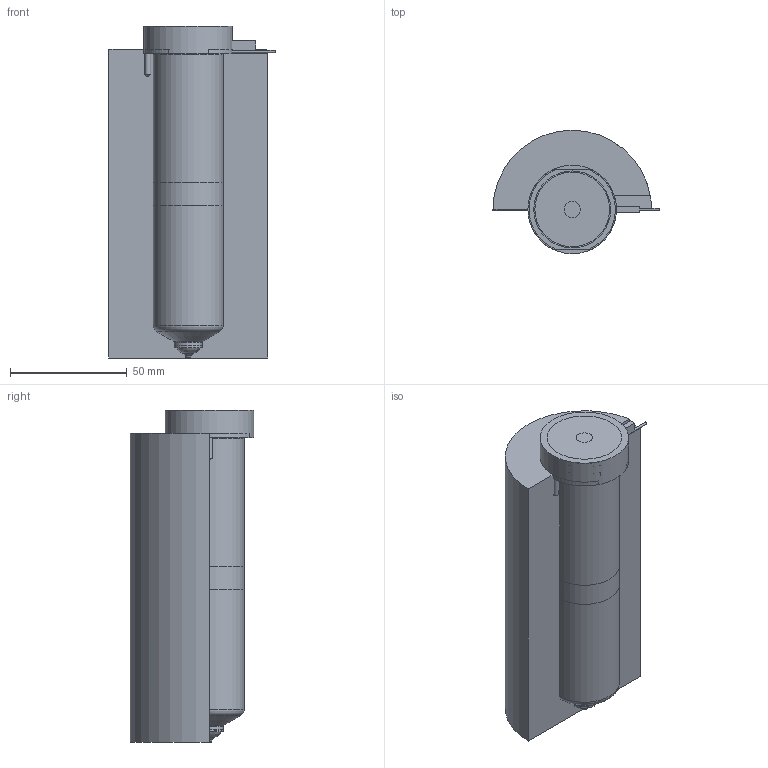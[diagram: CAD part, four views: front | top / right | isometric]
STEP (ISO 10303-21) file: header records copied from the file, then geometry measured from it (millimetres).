
FILE_DESCRIPTION(/* description */ (''),/* implementation_level */ '2;1');
FILE_NAME(/* name */ 'BXTV16130_200C_b',/* time_stamp */ '2017-09-28T16:05:13+13:00',/* author */ (''),/* organization */ (''),/* preprocessor_version */ 'ST-DEVELOPER v9',/* originating_system */ 'UGS - NX 4.0',/* authorisation */ '');
FILE_SCHEMA (('AUTOMOTIVE_DESIGN { 1 0 10303 214 1 1 1 1 }'));
Length unit declared in the file: millimetre
Products named in the file (1): BXTV16130_200C_b
Bounding box: 71.25 x 53 x 142.34 mm (x, y, z)
Volume: 375833.4 mm3; surface area: 60886.3 mm2
Topology: 7 solids, 7 shells, 104 faces, 225 edges, 145 vertices
Faces by surface type: plane 43, cylinder 28, cone 19, torus 11, bspline 3
Full cylindrical faces by diameter (mm): 1 x3, 2.5 x3, 7 x1, 11.61 x1, 12.01 x2, 14.8 x1, 25.4 x1, 30 x2, 38 x1
Entity records: 2745 total; most frequent: CARTESIAN_POINT 558, DIRECTION 471, ORIENTED_EDGE 358, AXIS2_PLACEMENT_3D 200, EDGE_CURVE 179, EDGE_LOOP 150, VERTEX_POINT 136, ADVANCED_FACE 104
